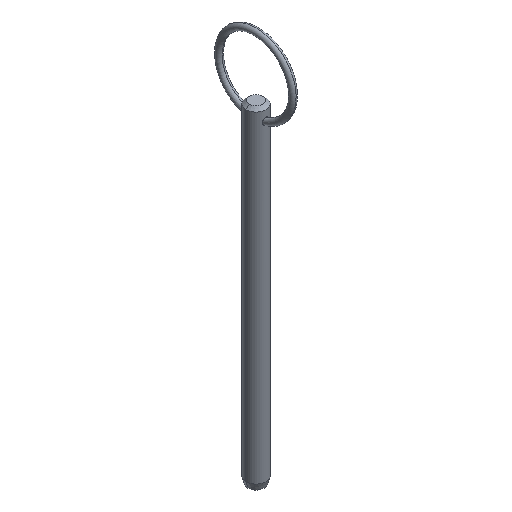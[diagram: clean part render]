
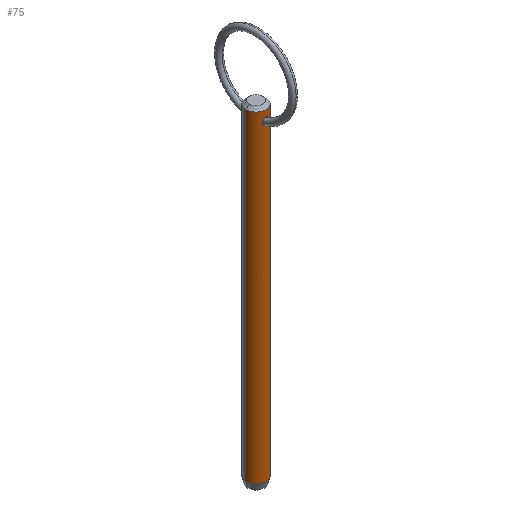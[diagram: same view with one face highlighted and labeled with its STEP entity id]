
A CAD part, isometric view. The second image highlights one B-rep face of the part: STEP entity #75.
In plain terms, the highlighted cylindrical face has radius 3.175 mm (diameter 6.35 mm), a partial arc.
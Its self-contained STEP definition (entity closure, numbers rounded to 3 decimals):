
#3 = DIRECTION ( 'NONE',  ( 0., 0., -1. ) ) ;
#7 = CARTESIAN_POINT ( 'NONE',  ( -1.004, -3.012, 92.695 ) ) ;
#15 = EDGE_LOOP ( 'NONE', ( #436, #338, #466, #39 ) ) ;
#16 = ORIENTED_EDGE ( 'NONE', *, *, #212, .T. ) ;
#22 = CARTESIAN_POINT ( 'NONE',  ( 0.268, -3.166, 91.829 ) ) ;
#26 = CARTESIAN_POINT ( 'NONE',  ( 0.628, -3.114, 92.004 ) ) ;
#27 = CARTESIAN_POINT ( 'NONE',  ( 0., -3.175, 93.882 ) ) ;
#29 = VERTEX_POINT ( 'NONE', #157 ) ;
#36 = CARTESIAN_POINT ( 'NONE',  ( 0., -3.175, 91.803 ) ) ;
#37 = CARTESIAN_POINT ( 'NONE',  ( 0., -3.175, 93.882 ) ) ;
#39 = ORIENTED_EDGE ( 'NONE', *, *, #445, .T. ) ;
#41 = CARTESIAN_POINT ( 'NONE',  ( -0.264, -3.165, 93.844 ) ) ;
#65 = CARTESIAN_POINT ( 'NONE',  ( 3.175, 0., 95.98 ) ) ;
#68 = CARTESIAN_POINT ( 'NONE',  ( -0.269, -3.166, 91.829 ) ) ;
#75 = ADVANCED_FACE ( 'NONE', ( #211, #94 ), #136, .T. ) ;
#78 = CARTESIAN_POINT ( 'NONE',  ( -0.133, -3.173, 93.874 ) ) ;
#91 = AXIS2_PLACEMENT_3D ( 'NONE', #96, #350, #321 ) ;
#94 = FACE_BOUND ( 'NONE', #185, .T. ) ;
#96 = CARTESIAN_POINT ( 'NONE',  ( 0., 0., 91.4 ) ) ;
#102 = CARTESIAN_POINT ( 'NONE',  ( 0.982, -3.02, 92.558 ) ) ;
#103 = CARTESIAN_POINT ( 'NONE',  ( 0.617, -3.116, 93.651 ) ) ;
#104 = CARTESIAN_POINT ( 'NONE',  ( -0.888, -3.049, 92.309 ) ) ;
#111 = CARTESIAN_POINT ( 'NONE',  ( 0., 0., -5.92 ) ) ;
#131 = B_SPLINE_CURVE_WITH_KNOTS ( 'NONE', 3,
 ( #291, #135, #68, #361, #250, #210, #104, #411, #7, #191, #340, #407, #450, #264, #41, #78, #261, #37 ),
 .UNSPECIFIED., .F., .F.,
 ( 4, 2, 2, 2, 2, 2, 2, 2, 4 ),
 ( 0.006, 0.006, 0.007, 0.007, 0.008, 0.008, 0.009, 0.009, 0.009 ),
 .UNSPECIFIED. ) ;
#135 = CARTESIAN_POINT ( 'NONE',  ( -0.134, -3.175, 91.803 ) ) ;
#136 = CYLINDRICAL_SURFACE ( 'NONE', #91, 3.175 ) ;
#137 = CARTESIAN_POINT ( 'NONE',  ( 0., -3.175, 91.803 ) ) ;
#156 = CARTESIAN_POINT ( 'NONE',  ( 0., 0., 95.98 ) ) ;
#157 = CARTESIAN_POINT ( 'NONE',  ( -3.175, 0., -5.92 ) ) ;
#160 = VECTOR ( 'NONE', #176, 1000. ) ;
#175 = CARTESIAN_POINT ( 'NONE',  ( 0., -3.175, 93.882 ) ) ;
#176 = DIRECTION ( 'NONE',  ( 0., 0., -1. ) ) ;
#179 = CARTESIAN_POINT ( 'NONE',  ( 0.51, -3.136, 93.734 ) ) ;
#185 = EDGE_LOOP ( 'NONE', ( #472, #16 ) ) ;
#191 = CARTESIAN_POINT ( 'NONE',  ( -0.991, -3.016, 93.096 ) ) ;
#195 = VERTEX_POINT ( 'NONE', #65 ) ;
#207 = VERTEX_POINT ( 'NONE', #478 ) ;
#209 = CARTESIAN_POINT ( 'NONE',  ( 0.134, -3.175, 91.803 ) ) ;
#210 = CARTESIAN_POINT ( 'NONE',  ( -0.815, -3.07, 92.195 ) ) ;
#211 = FACE_OUTER_BOUND ( 'NONE', #15, .T. ) ;
#212 = EDGE_CURVE ( 'NONE', #439, #403, #131, .T. ) ;
#216 = CIRCLE ( 'NONE', #441, 3.175 ) ;
#219 = EDGE_CURVE ( 'NONE', #195, #279, #240, .T. ) ;
#221 = DIRECTION ( 'NONE',  ( 0., 0., 1. ) ) ;
#224 = B_SPLINE_CURVE_WITH_KNOTS ( 'NONE', 3,
 ( #27, #324, #289, #179, #103, #239, #360, #284, #102, #431, #325, #26, #317, #22, #209, #137 ),
 .UNSPECIFIED., .F., .F.,
 ( 4, 2, 2, 2, 2, 2, 2, 4 ),
 ( 0.003, 0.003, 0.004, 0.004, 0.005, 0.005, 0.006, 0.006 ),
 .UNSPECIFIED. ) ;
#226 = DIRECTION ( 'NONE',  ( 0., 0., -1. ) ) ;
#239 = CARTESIAN_POINT ( 'NONE',  ( 0.884, -3.055, 93.357 ) ) ;
#240 = CIRCLE ( 'NONE', #475, 3.175 ) ;
#250 = CARTESIAN_POINT ( 'NONE',  ( -0.629, -3.114, 92.005 ) ) ;
#261 = CARTESIAN_POINT ( 'NONE',  ( -0.067, -3.175, 93.882 ) ) ;
#264 = CARTESIAN_POINT ( 'NONE',  ( -0.328, -3.159, 93.821 ) ) ;
#279 = VERTEX_POINT ( 'NONE', #414 ) ;
#284 = CARTESIAN_POINT ( 'NONE',  ( 1.004, -3.012, 92.693 ) ) ;
#289 = CARTESIAN_POINT ( 'NONE',  ( 0.269, -3.166, 93.85 ) ) ;
#291 = CARTESIAN_POINT ( 'NONE',  ( 0., -3.175, 91.803 ) ) ;
#317 = CARTESIAN_POINT ( 'NONE',  ( 0.515, -3.135, 91.93 ) ) ;
#321 = DIRECTION ( 'NONE',  ( -1., 0., 0. ) ) ;
#324 = CARTESIAN_POINT ( 'NONE',  ( 0.134, -3.175, 93.882 ) ) ;
#325 = CARTESIAN_POINT ( 'NONE',  ( 0.815, -3.07, 92.195 ) ) ;
#327 = LINE ( 'NONE', #442, #480 ) ;
#338 = ORIENTED_EDGE ( 'NONE', *, *, #219, .T. ) ;
#340 = CARTESIAN_POINT ( 'NONE',  ( -0.882, -3.055, 93.36 ) ) ;
#350 = DIRECTION ( 'NONE',  ( 0., 0., -1. ) ) ;
#360 = CARTESIAN_POINT ( 'NONE',  ( 0.992, -3.016, 93.094 ) ) ;
#361 = CARTESIAN_POINT ( 'NONE',  ( -0.516, -3.135, 91.931 ) ) ;
#373 = EDGE_CURVE ( 'NONE', #279, #29, #457, .T. ) ;
#381 = EDGE_CURVE ( 'NONE', #403, #439, #224, .T. ) ;
#399 = CARTESIAN_POINT ( 'NONE',  ( -3.175, 0., 91.4 ) ) ;
#403 = VERTEX_POINT ( 'NONE', #175 ) ;
#405 = DIRECTION ( 'NONE',  ( -1., 0., 0. ) ) ;
#407 = CARTESIAN_POINT ( 'NONE',  ( -0.615, -3.116, 93.653 ) ) ;
#411 = CARTESIAN_POINT ( 'NONE',  ( -0.983, -3.02, 92.559 ) ) ;
#414 = CARTESIAN_POINT ( 'NONE',  ( -3.175, 0., 95.98 ) ) ;
#415 = DIRECTION ( 'NONE',  ( 1., 0., 0. ) ) ;
#431 = CARTESIAN_POINT ( 'NONE',  ( 0.888, -3.049, 92.309 ) ) ;
#435 = EDGE_CURVE ( 'NONE', #195, #207, #327, .T. ) ;
#436 = ORIENTED_EDGE ( 'NONE', *, *, #435, .F. ) ;
#439 = VERTEX_POINT ( 'NONE', #36 ) ;
#441 = AXIS2_PLACEMENT_3D ( 'NONE', #111, #221, #405 ) ;
#442 = CARTESIAN_POINT ( 'NONE',  ( 3.175, 0., 91.4 ) ) ;
#445 = EDGE_CURVE ( 'NONE', #29, #207, #216, .T. ) ;
#450 = CARTESIAN_POINT ( 'NONE',  ( -0.508, -3.136, 93.735 ) ) ;
#457 = LINE ( 'NONE', #399, #160 ) ;
#466 = ORIENTED_EDGE ( 'NONE', *, *, #373, .T. ) ;
#472 = ORIENTED_EDGE ( 'NONE', *, *, #381, .T. ) ;
#475 = AXIS2_PLACEMENT_3D ( 'NONE', #156, #226, #415 ) ;
#478 = CARTESIAN_POINT ( 'NONE',  ( 3.175, 0., -5.92 ) ) ;
#480 = VECTOR ( 'NONE', #3, 1000. ) ;
